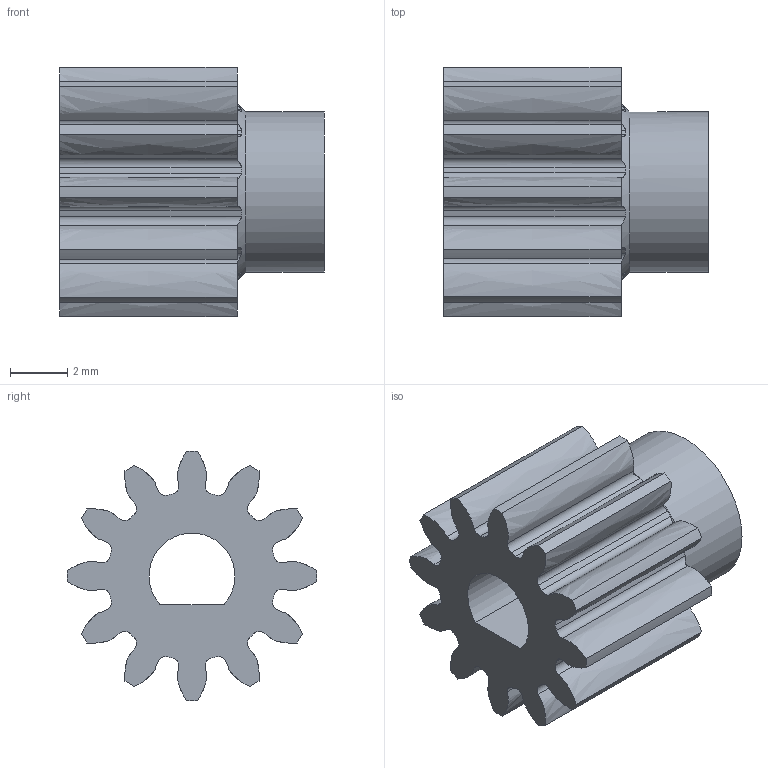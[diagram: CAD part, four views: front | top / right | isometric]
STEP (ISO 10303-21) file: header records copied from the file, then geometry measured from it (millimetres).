
FILE_DESCRIPTION(/* description */ ('STEP AP242 Edition 2','CAx-IF Rec.Pracs.---Representation and Presentation of Product Manufacturing Information (PMI)---4.0---2014-10-13','CAx-IF Rec.Pracs.---3D Tessellated Geometry---0.4---2014-09-14','2;1','CAx-IF Rec.Pracs.---User Defined Attributes---1.5---2016-08-15'),/* implementation_level */ '2;1');
FILE_NAME(/* name */ 'bb_v3 - Spur gear (12 teeth)',/* time_stamp */ '2026-05-01T07:59:50Z',/* author */ (''),/* organization */ (''),/* preprocessor_version */ 'ST-DEVELOPER v20',/* originating_system */ 'ONSHAPE BY PTC INC, 1.214',/* authorisation */ ' ');
FILE_SCHEMA (('AP242_MANAGED_MODEL_BASED_3D_ENGINEERING_MIM_LF { 1 0 10303 442 3 1 4 }'));
Length unit declared in the file: metre
Products named in the file (1): Spur gear (12 teeth)
Bounding box: 9.25 x 8.71 x 8.71 mm (x, y, z)
Volume: 278.9 mm3; surface area: 495.7 mm2
Topology: 1 solids, 1 shells, 90 faces, 264 edges, 176 vertices
Faces by surface type: cylinder 50, bspline 24, plane 15, cone 1
Full cylindrical faces by diameter (mm): 5.6 x1
Entity records: 5222 total; most frequent: CARTESIAN_POINT 2925, ORIENTED_EDGE 520, DIRECTION 434, EDGE_CURVE 260, AXIS2_PLACEMENT_3D 179, VERTEX_POINT 174, CIRCLE 112, EDGE_LOOP 94
